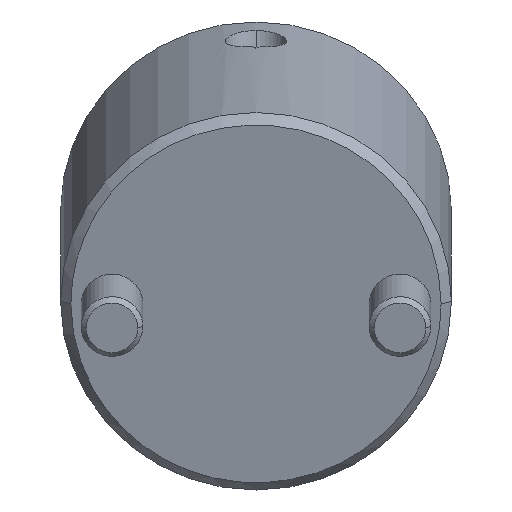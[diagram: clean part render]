
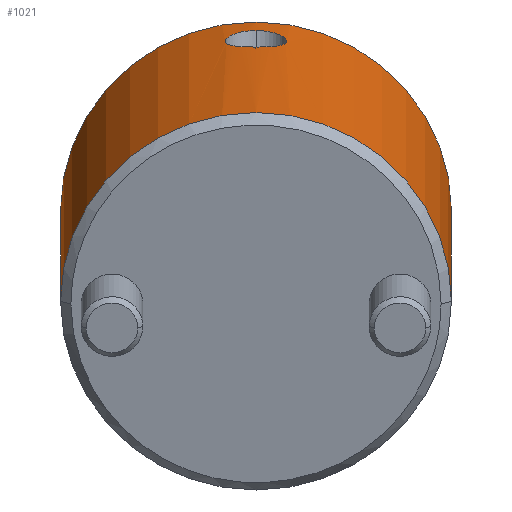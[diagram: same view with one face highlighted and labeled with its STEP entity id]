
A CAD part, front view. The second image highlights one B-rep face of the part: STEP entity #1021.
In plain terms, the highlighted cylindrical face has radius 19 mm (diameter 38 mm), a partial arc.
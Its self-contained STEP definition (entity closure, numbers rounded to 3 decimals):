
#760=CARTESIAN_POINT('Vertex',(0.,19.,1.)) ;
#763=CARTESIAN_POINT('Axis2P3D Location',(0.,0.,1.)) ;
#767=CARTESIAN_POINT('Vertex',(0.,-19.,1.)) ;
#919=CARTESIAN_POINT('Axis2P3D Location',(0.,0.,-1.8)) ;
#924=CARTESIAN_POINT('Line Origine',(0.,19.,-1.8)) ;
#928=CARTESIAN_POINT('Vertex',(0.,19.,35.)) ;
#931=CARTESIAN_POINT('Axis2P3D Location',(0.,0.,35.)) ;
#935=CARTESIAN_POINT('Vertex',(0.,-19.,35.)) ;
#938=CARTESIAN_POINT('Line Origine',(0.,-19.,-1.8)) ;
#950=CARTESIAN_POINT('Control Point',(19.,0.,31.81)) ;
#951=CARTESIAN_POINT('Control Point',(19.,0.081,31.81)) ;
#952=CARTESIAN_POINT('Control Point',(19.,0.161,31.807)) ;
#953=CARTESIAN_POINT('Control Point',(18.999,0.242,31.801)) ;
#954=CARTESIAN_POINT('Control Point',(18.995,0.484,31.775)) ;
#955=CARTESIAN_POINT('Control Point',(18.987,0.724,31.722)) ;
#956=CARTESIAN_POINT('Control Point',(18.98,0.886,31.673)) ;
#957=CARTESIAN_POINT('Control Point',(18.964,1.197,31.555)) ;
#958=CARTESIAN_POINT('Control Point',(18.943,1.487,31.395)) ;
#959=CARTESIAN_POINT('Control Point',(18.931,1.628,31.302)) ;
#960=CARTESIAN_POINT('Control Point',(18.9,1.968,31.046)) ;
#961=CARTESIAN_POINT('Control Point',(18.866,2.263,30.733)) ;
#962=CARTESIAN_POINT('Control Point',(18.846,2.422,30.523)) ;
#963=CARTESIAN_POINT('Control Point',(18.808,2.698,30.073)) ;
#964=CARTESIAN_POINT('Control Point',(18.781,2.88,29.574)) ;
#965=CARTESIAN_POINT('Control Point',(18.77,2.946,29.312)) ;
#966=CARTESIAN_POINT('Control Point',(18.76,3.011,28.876)) ;
#967=CARTESIAN_POINT('Control Point',(18.762,3.001,28.44)) ;
#968=CARTESIAN_POINT('Control Point',(18.764,2.985,28.267)) ;
#969=CARTESIAN_POINT('Control Point',(18.775,2.917,27.841)) ;
#970=CARTESIAN_POINT('Control Point',(18.796,2.779,27.436)) ;
#971=CARTESIAN_POINT('Control Point',(18.812,2.67,27.204)) ;
#972=CARTESIAN_POINT('Control Point',(18.854,2.364,26.692)) ;
#973=CARTESIAN_POINT('Control Point',(18.903,1.944,26.275)) ;
#974=CARTESIAN_POINT('Control Point',(18.93,1.671,26.07)) ;
#975=CARTESIAN_POINT('Control Point',(18.968,1.183,25.804)) ;
#976=CARTESIAN_POINT('Control Point',(18.991,0.644,25.656)) ;
#977=CARTESIAN_POINT('Control Point',(18.997,0.43,25.617)) ;
#978=CARTESIAN_POINT('Control Point',(19.,0.216,25.598)) ;
#979=CARTESIAN_POINT('Control Point',(19.,0.,25.598)) ;
#980=CARTESIAN_POINT('Vertex',(19.,0.,31.81)) ;
#982=CARTESIAN_POINT('Vertex',(19.,0.,25.598)) ;
#986=CARTESIAN_POINT('Control Point',(19.,0.,25.598)) ;
#987=CARTESIAN_POINT('Control Point',(19.,-0.084,25.598)) ;
#988=CARTESIAN_POINT('Control Point',(19.,-0.168,25.601)) ;
#989=CARTESIAN_POINT('Control Point',(18.999,-0.251,25.607)) ;
#990=CARTESIAN_POINT('Control Point',(18.994,-0.501,25.633)) ;
#991=CARTESIAN_POINT('Control Point',(18.986,-0.748,25.686)) ;
#992=CARTESIAN_POINT('Control Point',(18.979,-0.914,25.733)) ;
#993=CARTESIAN_POINT('Control Point',(18.962,-1.232,25.849)) ;
#994=CARTESIAN_POINT('Control Point',(18.939,-1.529,26.007)) ;
#995=CARTESIAN_POINT('Control Point',(18.927,-1.672,26.097)) ;
#996=CARTESIAN_POINT('Control Point',(18.895,-2.012,26.346)) ;
#997=CARTESIAN_POINT('Control Point',(18.861,-2.304,26.651)) ;
#998=CARTESIAN_POINT('Control Point',(18.841,-2.458,26.853)) ;
#999=CARTESIAN_POINT('Control Point',(18.804,-2.725,27.289)) ;
#1000=CARTESIAN_POINT('Control Point',(18.778,-2.896,27.771)) ;
#1001=CARTESIAN_POINT('Control Point',(18.769,-2.956,28.026)) ;
#1002=CARTESIAN_POINT('Control Point',(18.758,-3.025,28.544)) ;
#1003=CARTESIAN_POINT('Control Point',(18.764,-2.988,29.068)) ;
#1004=CARTESIAN_POINT('Control Point',(18.771,-2.942,29.332)) ;
#1005=CARTESIAN_POINT('Control Point',(18.79,-2.822,29.759)) ;
#1006=CARTESIAN_POINT('Control Point',(18.817,-2.634,30.157)) ;
#1007=CARTESIAN_POINT('Control Point',(18.829,-2.547,30.312)) ;
#1008=CARTESIAN_POINT('Control Point',(18.86,-2.309,30.68)) ;
#1009=CARTESIAN_POINT('Control Point',(18.894,-2.017,30.997)) ;
#1010=CARTESIAN_POINT('Control Point',(18.914,-1.822,31.168)) ;
#1011=CARTESIAN_POINT('Control Point',(18.954,-1.376,31.487)) ;
#1012=CARTESIAN_POINT('Control Point',(18.983,-0.869,31.695)) ;
#1013=CARTESIAN_POINT('Control Point',(18.994,-0.578,31.773)) ;
#1014=CARTESIAN_POINT('Control Point',(19.,-0.291,31.81)) ;
#1015=CARTESIAN_POINT('Control Point',(19.,0.,31.81)) ;
#764=DIRECTION('Axis2P3D Direction',(0.,0.,1.)) ;
#920=DIRECTION('Axis2P3D Direction',(0.,-0.,1.)) ;
#921=DIRECTION('Axis2P3D XDirection',(0.,-1.,0.)) ;
#925=DIRECTION('Vector Direction',(0.,0.,1.)) ;
#932=DIRECTION('Axis2P3D Direction',(0.,-0.,1.)) ;
#939=DIRECTION('Vector Direction',(0.,0.,1.)) ;
#765=AXIS2_PLACEMENT_3D('Circle Axis2P3D',#763,#764,$) ;
#922=AXIS2_PLACEMENT_3D('Cylinder Axis2P3D',#919,#920,#921) ;
#933=AXIS2_PLACEMENT_3D('Circle Axis2P3D',#931,#932,$) ;
#944=ORIENTED_EDGE('',*,*,#930,.F.) ;
#945=ORIENTED_EDGE('',*,*,#937,.T.) ;
#946=ORIENTED_EDGE('',*,*,#942,.T.) ;
#947=ORIENTED_EDGE('',*,*,#769,.F.) ;
#1018=ORIENTED_EDGE('',*,*,#984,.T.) ;
#1019=ORIENTED_EDGE('',*,*,#1016,.T.) ;
#1020=FACE_BOUND('',#1017,.T.) ;
#926=VECTOR('Line Direction',#925,1.) ;
#940=VECTOR('Line Direction',#939,1.) ;
#1021=ADVANCED_FACE('MANIFOLD_SOLID_BREP #1114',(#948,#1020),#923,.T.) ;
#949=B_SPLINE_CURVE_WITH_KNOTS('',5,(#950,#951,#952,#953,#954,#955,#956,#957,#958,#959,#960,#961,#962,#963,#964,#965,#966,#967,#968,#969,#970,#971,#972,#973,#974,#975,#976,#977,#978,#979),.UNSPECIFIED.,.F.,.U.,(6,3,3,3,3,3,3,3,3,6),(0.,0.582,1.76,2.967,4.812,6.638,7.845,9.65,12.048,13.588),.UNSPECIFIED.) ;
#985=B_SPLINE_CURVE_WITH_KNOTS('',5,(#986,#987,#988,#989,#990,#991,#992,#993,#994,#995,#996,#997,#998,#999,#1000,#1001,#1002,#1003,#1004,#1005,#1006,#1007,#1008,#1009,#1010,#1011,#1012,#1013,#1014,#1015),.UNSPECIFIED.,.F.,.U.,(6,3,3,3,3,3,3,3,3,6),(0.,0.601,1.805,3.01,4.817,6.623,8.448,9.673,11.498,13.589),.UNSPECIFIED.) ;
#766=CIRCLE('generated circle',#765,19.) ;
#934=CIRCLE('generated circle',#933,19.) ;
#923=CYLINDRICAL_SURFACE('generated cylinder',#922,19.) ;
#769=EDGE_CURVE('',#761,#768,#766,.F.) ;
#930=EDGE_CURVE('',#929,#761,#927,.F.) ;
#937=EDGE_CURVE('',#929,#936,#934,.F.) ;
#942=EDGE_CURVE('',#936,#768,#941,.F.) ;
#984=EDGE_CURVE('',#981,#983,#949,.T.) ;
#1016=EDGE_CURVE('',#983,#981,#985,.T.) ;
#943=EDGE_LOOP('',(#944,#945,#946,#947)) ;
#1017=EDGE_LOOP('',(#1018,#1019)) ;
#948=FACE_OUTER_BOUND('',#943,.T.) ;
#927=LINE('Line',#924,#926) ;
#941=LINE('Line',#938,#940) ;
#761=VERTEX_POINT('',#760) ;
#768=VERTEX_POINT('',#767) ;
#929=VERTEX_POINT('',#928) ;
#936=VERTEX_POINT('',#935) ;
#981=VERTEX_POINT('',#980) ;
#983=VERTEX_POINT('',#982) ;
